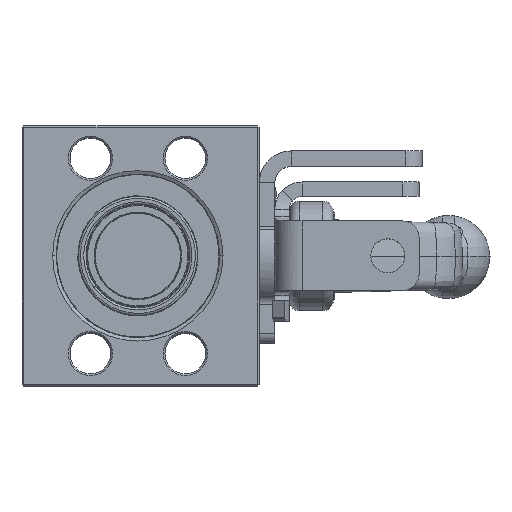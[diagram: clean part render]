
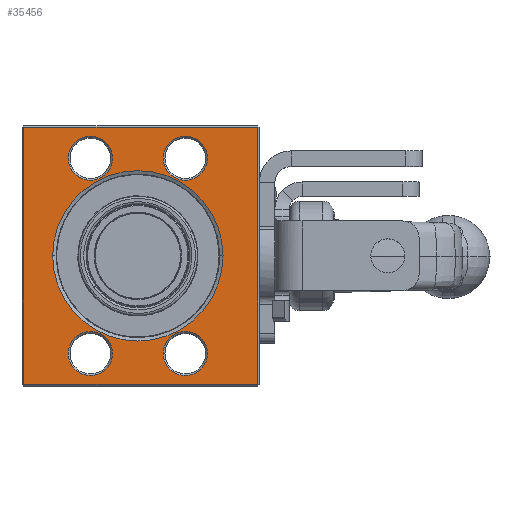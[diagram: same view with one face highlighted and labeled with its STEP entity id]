
A CAD part, top view. The second image highlights one B-rep face of the part: STEP entity #35456.
In plain terms, the highlighted planar face has unit normal (0, 0, 1).
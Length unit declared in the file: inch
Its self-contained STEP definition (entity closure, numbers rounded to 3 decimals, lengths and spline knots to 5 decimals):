
#227 = VECTOR ( 'NONE', #6521, 39.37008 ) ;
#742 = CARTESIAN_POINT ( 'NONE',  ( -0.4678, 2.56055, 2.39981 ) ) ;
#1218 = VERTEX_POINT ( 'NONE', #21055 ) ;
#1583 = EDGE_LOOP ( 'NONE', ( #27730, #58664 ) ) ;
#1702 = VERTEX_POINT ( 'NONE', #46078 ) ;
#1890 = CARTESIAN_POINT ( 'NONE',  ( -1.0528, 0.31055, 2.39981 ) ) ;
#2077 = EDGE_CURVE ( 'NONE', #11651, #42011, #46010, .T. ) ;
#2368 = ORIENTED_EDGE ( 'NONE', *, *, #2679, .T. ) ;
#2679 = EDGE_CURVE ( 'NONE', #22306, #49956, #11652, .T. ) ;
#3203 = EDGE_CURVE ( 'NONE', #1702, #7921, #12643, .T. ) ;
#3505 = PLANE ( 'NONE',  #31822 ) ;
#3956 = AXIS2_PLACEMENT_3D ( 'NONE', #37403, #46087, #37116 ) ;
#3957 = VERTEX_POINT ( 'NONE', #1890 ) ;
#4826 = CARTESIAN_POINT ( 'NONE',  ( 0.2212, 1.43555, 2.39981 ) ) ;
#4943 = VERTEX_POINT ( 'NONE', #25651 ) ;
#5037 = LINE ( 'NONE', #41538, #19037 ) ;
#5294 = CIRCLE ( 'NONE', #20567, 0.2545 ) ;
#5414 = ORIENTED_EDGE ( 'NONE', *, *, #5432, .T. ) ;
#5432 = EDGE_CURVE ( 'NONE', #36303, #3957, #37999, .T. ) ;
#5785 = CARTESIAN_POINT ( 'NONE',  ( -1.7418, 1.43555, 2.39981 ) ) ;
#5881 = DIRECTION ( 'NONE',  ( 0., 1., 0. ) ) ;
#6521 = DIRECTION ( 'NONE',  ( 1., 0., 0. ) ) ;
#7112 = DIRECTION ( 'NONE',  ( 0., 0., -1. ) ) ;
#7921 = VERTEX_POINT ( 'NONE', #742 ) ;
#8635 = CARTESIAN_POINT ( 'NONE',  ( -2.0753, -0.06445, 2.39981 ) ) ;
#8764 = CARTESIAN_POINT ( 'NONE',  ( -1.3073, 2.56055, 2.39981 ) ) ;
#9647 = CARTESIAN_POINT ( 'NONE',  ( 0.6197, 2.91555, 2.39981 ) ) ;
#9936 = DIRECTION ( 'NONE',  ( -1., 0., 0. ) ) ;
#10402 = ORIENTED_EDGE ( 'NONE', *, *, #31587, .T. ) ;
#10601 = CARTESIAN_POINT ( 'NONE',  ( -2.0953, 2.91555, 2.39981 ) ) ;
#11651 = VERTEX_POINT ( 'NONE', #39368 ) ;
#11652 = CIRCLE ( 'NONE', #36508, 0.9815 ) ;
#12487 = DIRECTION ( 'NONE',  ( 0., 0., -1. ) ) ;
#12516 = AXIS2_PLACEMENT_3D ( 'NONE', #50864, #23394, #9936 ) ;
#12643 = CIRCLE ( 'NONE', #32708, 0.2545 ) ;
#13118 = LINE ( 'NONE', #8635, #18627 ) ;
#13850 = DIRECTION ( 'NONE',  ( 0., 0., -1. ) ) ;
#15042 = DIRECTION ( 'NONE',  ( -1., 0., 0. ) ) ;
#15758 = AXIS2_PLACEMENT_3D ( 'NONE', #19399, #7112, #57586 ) ;
#17327 = ORIENTED_EDGE ( 'NONE', *, *, #47997, .T. ) ;
#18627 = VECTOR ( 'NONE', #36131, 39.37008 ) ;
#18892 = AXIS2_PLACEMENT_3D ( 'NONE', #42210, #13850, #31785 ) ;
#19037 = VECTOR ( 'NONE', #5881, 39.37008 ) ;
#19214 = CIRCLE ( 'NONE', #12516, 0.2545 ) ;
#19232 = CARTESIAN_POINT ( 'NONE',  ( -0.7603, 1.43555, 2.39981 ) ) ;
#19399 = CARTESIAN_POINT ( 'NONE',  ( -0.2133, 0.31055, 2.39981 ) ) ;
#19676 = EDGE_LOOP ( 'NONE', ( #34083, #5414 ) ) ;
#19857 = VERTEX_POINT ( 'NONE', #33945 ) ;
#20385 = EDGE_CURVE ( 'NONE', #49956, #22306, #51278, .T. ) ;
#20567 = AXIS2_PLACEMENT_3D ( 'NONE', #53453, #34954, #48686 ) ;
#20612 = CARTESIAN_POINT ( 'NONE',  ( -2.0753, 2.91555, 2.39981 ) ) ;
#21055 = CARTESIAN_POINT ( 'NONE',  ( 0.6197, -0.04445, 2.39981 ) ) ;
#21415 = EDGE_LOOP ( 'NONE', ( #39847, #17327 ) ) ;
#22052 = DIRECTION ( 'NONE',  ( -1., 0., 0. ) ) ;
#22222 = CARTESIAN_POINT ( 'NONE',  ( -1.3073, 0.31055, 2.39981 ) ) ;
#22306 = VERTEX_POINT ( 'NONE', #4826 ) ;
#23080 = DIRECTION ( 'NONE',  ( 0., 0., -1. ) ) ;
#23205 = CIRCLE ( 'NONE', #57490, 0.2545 ) ;
#23309 = VERTEX_POINT ( 'NONE', #39599 ) ;
#23394 = DIRECTION ( 'NONE',  ( 0., 0., -1. ) ) ;
#24181 = CARTESIAN_POINT ( 'NONE',  ( -2.0953, -0.04445, 2.39981 ) ) ;
#24353 = LINE ( 'NONE', #10601, #30132 ) ;
#25483 = AXIS2_PLACEMENT_3D ( 'NONE', #19232, #55959, #15042 ) ;
#25651 = CARTESIAN_POINT ( 'NONE',  ( -1.0528, 2.56055, 2.39981 ) ) ;
#26236 = FACE_BOUND ( 'NONE', #21415, .T. ) ;
#27552 = CARTESIAN_POINT ( 'NONE',  ( -0.7603, 1.43555, 2.39981 ) ) ;
#27716 = VERTEX_POINT ( 'NONE', #20612 ) ;
#27730 = ORIENTED_EDGE ( 'NONE', *, *, #3203, .T. ) ;
#28228 = EDGE_CURVE ( 'NONE', #4943, #23309, #57607, .T. ) ;
#28448 = DIRECTION ( 'NONE',  ( -1., 0., 0. ) ) ;
#30132 = VECTOR ( 'NONE', #33634, 39.37008 ) ;
#30575 = EDGE_CURVE ( 'NONE', #27716, #19857, #13118, .T. ) ;
#31017 = EDGE_CURVE ( 'NONE', #37255, #27716, #24353, .T. ) ;
#31022 = FACE_BOUND ( 'NONE', #1583, .T. ) ;
#31258 = ORIENTED_EDGE ( 'NONE', *, *, #41657, .T. ) ;
#31471 = DIRECTION ( 'NONE',  ( 0., 0., -1. ) ) ;
#31587 = EDGE_CURVE ( 'NONE', #23309, #4943, #5294, .T. ) ;
#31785 = DIRECTION ( 'NONE',  ( -1., 0., 0. ) ) ;
#31822 = AXIS2_PLACEMENT_3D ( 'NONE', #57587, #12487, #22052 ) ;
#32564 = DIRECTION ( 'NONE',  ( -1., 0., 0. ) ) ;
#32708 = AXIS2_PLACEMENT_3D ( 'NONE', #41260, #36777, #32564 ) ;
#33634 = DIRECTION ( 'NONE',  ( -1., 0., 0. ) ) ;
#33945 = CARTESIAN_POINT ( 'NONE',  ( -2.0753, -0.04445, 2.39981 ) ) ;
#34083 = ORIENTED_EDGE ( 'NONE', *, *, #38482, .T. ) ;
#34954 = DIRECTION ( 'NONE',  ( 0., 0., -1. ) ) ;
#35203 = FACE_BOUND ( 'NONE', #19676, .T. ) ;
#35456 = ADVANCED_FACE ( 'NONE', ( #57881, #35203, #31022, #49244, #26236, #53410 ), #3505, .F. ) ;
#36131 = DIRECTION ( 'NONE',  ( 0., -1., 0. ) ) ;
#36303 = VERTEX_POINT ( 'NONE', #53561 ) ;
#36508 = AXIS2_PLACEMENT_3D ( 'NONE', #27552, #23080, #41339 ) ;
#36765 = EDGE_LOOP ( 'NONE', ( #41032, #31258, #53301, #36775 ) ) ;
#36775 = ORIENTED_EDGE ( 'NONE', *, *, #31017, .T. ) ;
#36777 = DIRECTION ( 'NONE',  ( 0., 0., -1. ) ) ;
#37116 = DIRECTION ( 'NONE',  ( -1., 0., 0. ) ) ;
#37255 = VERTEX_POINT ( 'NONE', #9647 ) ;
#37403 = CARTESIAN_POINT ( 'NONE',  ( -0.2133, 0.31055, 2.39981 ) ) ;
#37999 = CIRCLE ( 'NONE', #18892, 0.2545 ) ;
#38101 = ORIENTED_EDGE ( 'NONE', *, *, #20385, .T. ) ;
#38482 = EDGE_CURVE ( 'NONE', #3957, #36303, #23205, .T. ) ;
#39368 = CARTESIAN_POINT ( 'NONE',  ( 0.0412, 0.31055, 2.39981 ) ) ;
#39599 = CARTESIAN_POINT ( 'NONE',  ( -1.5618, 2.56055, 2.39981 ) ) ;
#39847 = ORIENTED_EDGE ( 'NONE', *, *, #2077, .T. ) ;
#40619 = CIRCLE ( 'NONE', #15758, 0.2545 ) ;
#41032 = ORIENTED_EDGE ( 'NONE', *, *, #30575, .T. ) ;
#41260 = CARTESIAN_POINT ( 'NONE',  ( -0.2133, 2.56055, 2.39981 ) ) ;
#41339 = DIRECTION ( 'NONE',  ( -1., 0., 0. ) ) ;
#41538 = CARTESIAN_POINT ( 'NONE',  ( 0.6197, -0.06445, 2.39981 ) ) ;
#41657 = EDGE_CURVE ( 'NONE', #19857, #1218, #56419, .T. ) ;
#42011 = VERTEX_POINT ( 'NONE', #54910 ) ;
#42210 = CARTESIAN_POINT ( 'NONE',  ( -1.3073, 0.31055, 2.39981 ) ) ;
#43271 = EDGE_LOOP ( 'NONE', ( #54240, #10402 ) ) ;
#43364 = AXIS2_PLACEMENT_3D ( 'NONE', #8764, #45234, #28448 ) ;
#44784 = EDGE_LOOP ( 'NONE', ( #2368, #38101 ) ) ;
#45234 = DIRECTION ( 'NONE',  ( 0., 0., -1. ) ) ;
#46010 = CIRCLE ( 'NONE', #3956, 0.2545 ) ;
#46078 = CARTESIAN_POINT ( 'NONE',  ( 0.0412, 2.56055, 2.39981 ) ) ;
#46087 = DIRECTION ( 'NONE',  ( 0., 0., -1. ) ) ;
#47997 = EDGE_CURVE ( 'NONE', #42011, #11651, #40619, .T. ) ;
#48377 = EDGE_CURVE ( 'NONE', #7921, #1702, #19214, .T. ) ;
#48686 = DIRECTION ( 'NONE',  ( -1., 0., 0. ) ) ;
#49244 = FACE_BOUND ( 'NONE', #43271, .T. ) ;
#49682 = DIRECTION ( 'NONE',  ( -1., 0., 0. ) ) ;
#49956 = VERTEX_POINT ( 'NONE', #5785 ) ;
#50864 = CARTESIAN_POINT ( 'NONE',  ( -0.2133, 2.56055, 2.39981 ) ) ;
#50879 = EDGE_CURVE ( 'NONE', #1218, #37255, #5037, .T. ) ;
#51278 = CIRCLE ( 'NONE', #25483, 0.9815 ) ;
#53301 = ORIENTED_EDGE ( 'NONE', *, *, #50879, .T. ) ;
#53410 = FACE_OUTER_BOUND ( 'NONE', #36765, .T. ) ;
#53453 = CARTESIAN_POINT ( 'NONE',  ( -1.3073, 2.56055, 2.39981 ) ) ;
#53561 = CARTESIAN_POINT ( 'NONE',  ( -1.5618, 0.31055, 2.39981 ) ) ;
#54240 = ORIENTED_EDGE ( 'NONE', *, *, #28228, .T. ) ;
#54910 = CARTESIAN_POINT ( 'NONE',  ( -0.4678, 0.31055, 2.39981 ) ) ;
#55959 = DIRECTION ( 'NONE',  ( 0., 0., -1. ) ) ;
#56419 = LINE ( 'NONE', #24181, #227 ) ;
#57490 = AXIS2_PLACEMENT_3D ( 'NONE', #22222, #31471, #49682 ) ;
#57586 = DIRECTION ( 'NONE',  ( -1., 0., 0. ) ) ;
#57587 = CARTESIAN_POINT ( 'NONE',  ( -2.0953, -0.06445, 2.39981 ) ) ;
#57607 = CIRCLE ( 'NONE', #43364, 0.2545 ) ;
#57881 = FACE_BOUND ( 'NONE', #44784, .T. ) ;
#58664 = ORIENTED_EDGE ( 'NONE', *, *, #48377, .T. ) ;
